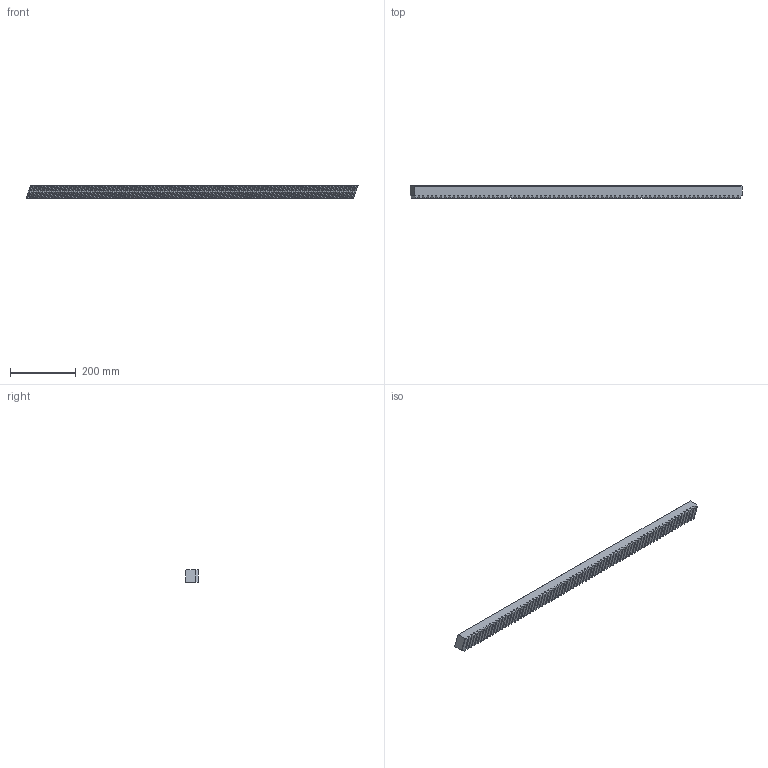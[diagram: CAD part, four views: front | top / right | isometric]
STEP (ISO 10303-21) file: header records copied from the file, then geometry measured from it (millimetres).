
FILE_DESCRIPTION(/* description */ (''),/* implementation_level */ '2;1');
FILE_NAME(/* name */ 'BL-1HR26R040100.ipt',/* time_stamp */ '2019-06-18T08:37:03+02:00',/* author */ ('VĂ©gh MĂˇtĂ©'),/* organization */ ('Bearing Kft'),/* preprocessor_version */ 'ST-DEVELOPER v16.7',/* originating_system */ 'DEX',/* authorisation */ $);
FILE_SCHEMA (('AUTOMOTIVE_DESIGN {1 0 10303 214 3 1 1}'));
Length unit declared in the file: millimetre
Products named in the file (1): BL-1HR26R040100.ipt
Bounding box: 1013.83 x 39 x 39 mm (x, y, z)
Volume: 1350351.9 mm3; surface area: 187226.4 mm2
Topology: 1 solids, 1 shells, 791 faces, 2196 edges, 1464 vertices
Faces by surface type: plane 562, bspline 227, cylinder 2
Entity records: 30644 total; most frequent: CARTESIAN_POINT 11041, ORIENTED_EDGE 4372, DIRECTION 3466, EDGE_CURVE 2186, LINE 1728, VECTOR 1728, VERTEX_POINT 1464, AXIS2_PLACEMENT_3D 869
